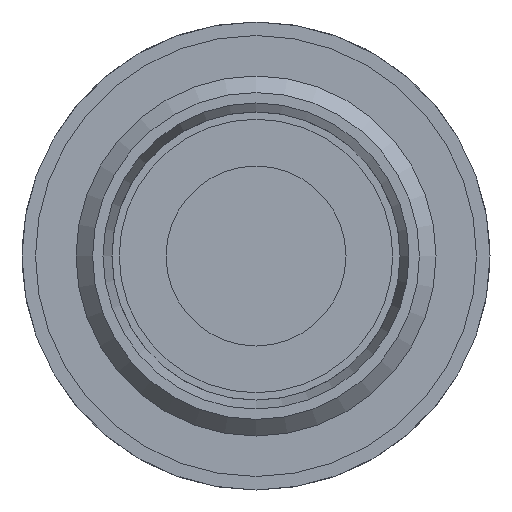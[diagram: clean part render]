
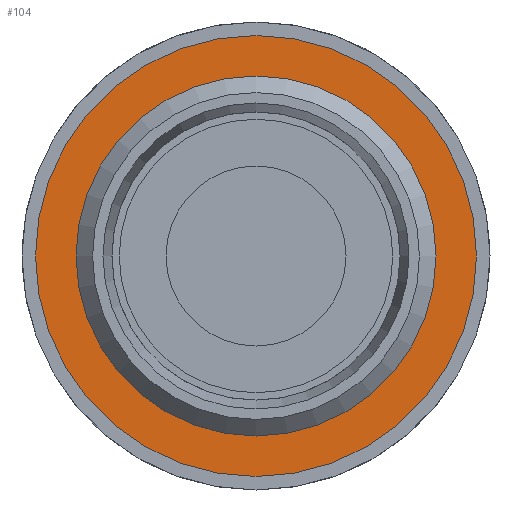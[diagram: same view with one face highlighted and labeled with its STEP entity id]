
A CAD part, left-side view. The second image highlights one B-rep face of the part: STEP entity #104.
In plain terms, the highlighted planar face has unit normal (-1, 0, 0).
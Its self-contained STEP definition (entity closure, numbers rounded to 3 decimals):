
#104 = ADVANCED_FACE( '', ( #181, #182 ), #183, .F. );
#181 = FACE_OUTER_BOUND( '', #263, .T. );
#182 = FACE_BOUND( '', #264, .T. );
#183 = PLANE( '', #265 );
#263 = EDGE_LOOP( '', ( #438 ) );
#264 = EDGE_LOOP( '', ( #439 ) );
#265 = AXIS2_PLACEMENT_3D( '', #440, #441, #442 );
#438 = ORIENTED_EDGE( '', *, *, #528, .F. );
#439 = ORIENTED_EDGE( '', *, *, #529, .T. );
#440 = CARTESIAN_POINT( '', ( 7.8, 10., 0. ) );
#441 = DIRECTION( '', ( 1., 0., 0. ) );
#442 = DIRECTION( '', ( 0., 0., -1. ) );
#528 = EDGE_CURVE( '', #622, #622, #623, .T. );
#529 = EDGE_CURVE( '', #624, #624, #625, .T. );
#622 = VERTEX_POINT( '', #818 );
#623 = CIRCLE( '', #819, 12.25 );
#624 = VERTEX_POINT( '', #820 );
#625 = CIRCLE( '', #821, 10. );
#818 = CARTESIAN_POINT( '', ( 7.8, 0., -12.25 ) );
#819 = AXIS2_PLACEMENT_3D( '', #924, #925, #926 );
#820 = CARTESIAN_POINT( '', ( 7.8, 0., -10. ) );
#821 = AXIS2_PLACEMENT_3D( '', #927, #928, #929 );
#924 = CARTESIAN_POINT( '', ( 7.8, 0., 0. ) );
#925 = DIRECTION( '', ( 1., 0., 0. ) );
#926 = DIRECTION( '', ( 0., 0., -1. ) );
#927 = CARTESIAN_POINT( '', ( 7.8, 0., 0. ) );
#928 = DIRECTION( '', ( 1., 0., 0. ) );
#929 = DIRECTION( '', ( 0., 0., -1. ) );
